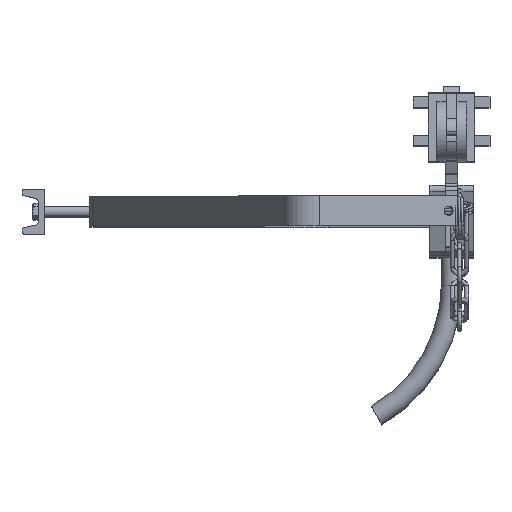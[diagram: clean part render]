
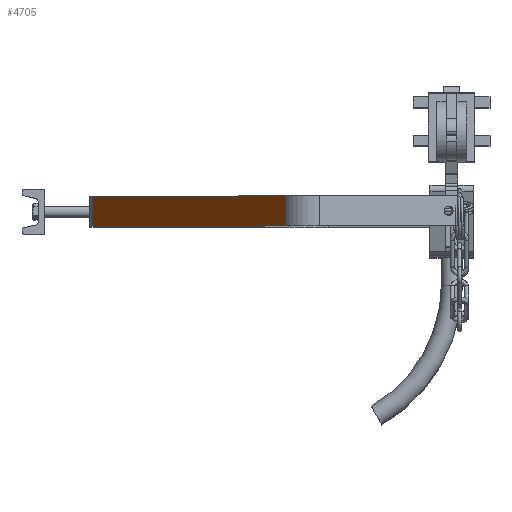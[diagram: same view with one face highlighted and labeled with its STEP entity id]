
A CAD part, top view. The second image highlights one B-rep face of the part: STEP entity #4705.
In plain terms, the highlighted planar face has unit normal (-0.866, 0, 0.5) as drawn and (-0.5, 0, -0.866) by its records, which use the part's own axes.
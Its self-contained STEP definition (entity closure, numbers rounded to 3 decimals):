
#319=PLANE('',#5126);
#810=LINE('',#9347,#1118);
#818=LINE('',#9367,#1126);
#829=LINE('',#9404,#1137);
#830=LINE('',#9406,#1138);
#1118=VECTOR('',#6030,1000.);
#1126=VECTOR('',#6046,1000.);
#1137=VECTOR('',#6077,1000.);
#1138=VECTOR('',#6080,1000.);
#1924=ORIENTED_EDGE('',*,*,#2577,.T.);
#1925=ORIENTED_EDGE('',*,*,#2547,.F.);
#1926=ORIENTED_EDGE('',*,*,#2576,.F.);
#1927=ORIENTED_EDGE('',*,*,#2557,.F.);
#2547=EDGE_CURVE('',#2936,#2937,#810,.T.);
#2557=EDGE_CURVE('',#2945,#2946,#818,.T.);
#2576=EDGE_CURVE('',#2946,#2936,#829,.T.);
#2577=EDGE_CURVE('',#2945,#2937,#830,.T.);
#2936=VERTEX_POINT('',#9346);
#2937=VERTEX_POINT('',#9348);
#2945=VERTEX_POINT('',#9368);
#2946=VERTEX_POINT('',#9369);
#3239=EDGE_LOOP('',(#1924,#1925,#1926,#1927));
#3519=FACE_BOUND('',#3239,.T.);
#4705=ADVANCED_FACE('',(#3519),#319,.T.);
#5126=AXIS2_PLACEMENT_3D('',#9405,#6078,#6079);
#6030=DIRECTION('',(-0.866,0.,0.5));
#6046=DIRECTION('',(0.866,0.,-0.5));
#6077=DIRECTION('',(0.,1.,0.));
#6078=DIRECTION('',(-0.5,0.,-0.866));
#6079=DIRECTION('',(-0.866,0.,0.5));
#6080=DIRECTION('',(0.,1.,0.));
#9346=CARTESIAN_POINT('',(-115.75,10.,-16.894));
#9347=CARTESIAN_POINT('',(-115.75,10.,-16.894));
#9348=CARTESIAN_POINT('',(-337.647,10.,111.218));
#9367=CARTESIAN_POINT('',(-337.647,-10.,111.218));
#9368=CARTESIAN_POINT('',(-337.647,-10.,111.218));
#9369=CARTESIAN_POINT('',(-115.75,-10.,-16.894));
#9404=CARTESIAN_POINT('',(-115.75,-10.,-16.894));
#9405=CARTESIAN_POINT('',(-115.75,-10.,-16.894));
#9406=CARTESIAN_POINT('',(-337.647,-10.,111.218));
